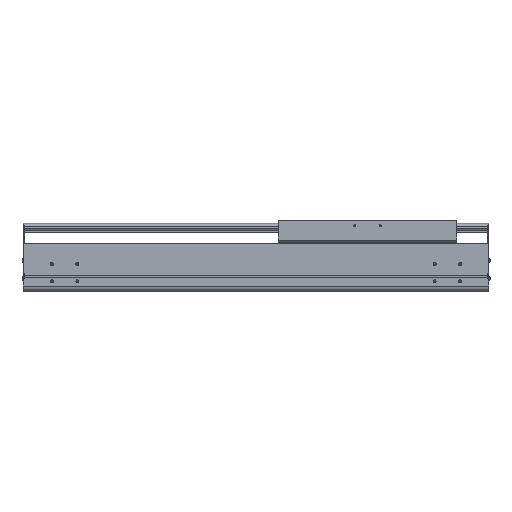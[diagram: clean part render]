
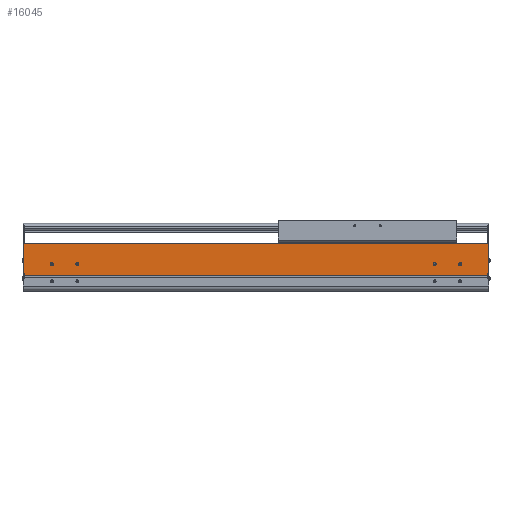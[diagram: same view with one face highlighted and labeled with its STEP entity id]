
A CAD part, top view. The second image highlights one B-rep face of the part: STEP entity #16045.
In plain terms, the highlighted planar face has unit normal (0, 0, 1).
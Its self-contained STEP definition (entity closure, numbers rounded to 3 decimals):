
#1622=DIRECTION('',(0.,-1.,0.));
#1623=VECTOR('',#1622,2.55);
#1624=CARTESIAN_POINT('',(0.,34.65,107.));
#1625=LINE('',#1624,#1623);
#2105=DIRECTION('',(1.,0.,0.));
#2106=VECTOR('',#2105,2.);
#2107=CARTESIAN_POINT('',(-911.,34.65,107.));
#2108=LINE('',#2107,#2106);
#2109=CARTESIAN_POINT('',(-54.5,54.,107.));
#2110=DIRECTION('',(0.,0.,-1.));
#2111=DIRECTION('',(1.,0.,0.));
#2112=AXIS2_PLACEMENT_3D('',#2109,#2110,#2111);
#2114=CARTESIAN_POINT('',(-54.5,54.,107.));
#2115=DIRECTION('',(0.,0.,-1.));
#2116=DIRECTION('',(-1.,0.,0.));
#2117=AXIS2_PLACEMENT_3D('',#2114,#2115,#2116);
#2119=CARTESIAN_POINT('',(-104.5,54.,107.));
#2120=DIRECTION('',(0.,0.,-1.));
#2121=DIRECTION('',(1.,0.,0.));
#2122=AXIS2_PLACEMENT_3D('',#2119,#2120,#2121);
#2124=CARTESIAN_POINT('',(-104.5,54.,107.));
#2125=DIRECTION('',(0.,0.,-1.));
#2126=DIRECTION('',(-1.,0.,0.));
#2127=AXIS2_PLACEMENT_3D('',#2124,#2125,#2126);
#2129=CARTESIAN_POINT('',(-854.5,54.,107.));
#2130=DIRECTION('',(0.,0.,-1.));
#2131=DIRECTION('',(1.,0.,0.));
#2132=AXIS2_PLACEMENT_3D('',#2129,#2130,#2131);
#2134=CARTESIAN_POINT('',(-854.5,54.,107.));
#2135=DIRECTION('',(0.,0.,-1.));
#2136=DIRECTION('',(-1.,0.,0.));
#2137=AXIS2_PLACEMENT_3D('',#2134,#2135,#2136);
#2139=CARTESIAN_POINT('',(-804.5,54.,107.));
#2140=DIRECTION('',(0.,0.,-1.));
#2141=DIRECTION('',(1.,0.,0.));
#2142=AXIS2_PLACEMENT_3D('',#2139,#2140,#2141);
#2144=CARTESIAN_POINT('',(-804.5,54.,107.));
#2145=DIRECTION('',(0.,0.,-1.));
#2146=DIRECTION('',(-1.,0.,0.));
#2147=AXIS2_PLACEMENT_3D('',#2144,#2145,#2146);
#2149=DIRECTION('',(0.,-1.,0.));
#2150=VECTOR('',#2149,2.55);
#2151=CARTESIAN_POINT('',(-909.,34.65,107.));
#2152=LINE('',#2151,#2150);
#2153=DIRECTION('',(0.,-1.,0.));
#2154=VECTOR('',#2153,58.85);
#2155=CARTESIAN_POINT('',(-911.,93.5,107.));
#2156=LINE('',#2155,#2154);
#2157=DIRECTION('',(0.,1.,0.));
#2158=VECTOR('',#2157,58.85);
#2159=CARTESIAN_POINT('',(2.,34.65,107.));
#2160=LINE('',#2159,#2158);
#2161=DIRECTION('',(1.,0.,0.));
#2162=VECTOR('',#2161,909.);
#2163=CARTESIAN_POINT('',(-909.,32.1,107.));
#2164=LINE('',#2163,#2162);
#2269=DIRECTION('',(-1.,0.,0.));
#2270=VECTOR('',#2269,913.);
#2271=CARTESIAN_POINT('',(2.,93.5,107.));
#2272=LINE('',#2271,#2270);
#9331=DIRECTION('',(1.,0.,0.));
#9332=VECTOR('',#9331,2.);
#9333=CARTESIAN_POINT('',(0.,34.65,107.));
#9334=LINE('',#9333,#9332);
#10581=CARTESIAN_POINT('',(-911.,34.65,107.));
#10582=VERTEX_POINT('',#10581);
#10583=CARTESIAN_POINT('',(-911.,93.5,107.));
#10584=VERTEX_POINT('',#10583);
#10813=CARTESIAN_POINT('',(-909.,32.1,107.));
#10814=VERTEX_POINT('',#10813);
#11229=CARTESIAN_POINT('',(0.,32.1,107.));
#11230=VERTEX_POINT('',#11229);
#11231=CARTESIAN_POINT('',(-52.,54.,107.));
#11232=CARTESIAN_POINT('',(-57.,54.,107.));
#11233=VERTEX_POINT('',#11231);
#11234=VERTEX_POINT('',#11232);
#11235=CARTESIAN_POINT('',(-102.,54.,107.));
#11236=CARTESIAN_POINT('',(-107.,54.,107.));
#11237=VERTEX_POINT('',#11235);
#11238=VERTEX_POINT('',#11236);
#11239=CARTESIAN_POINT('',(-852.,54.,107.));
#11240=CARTESIAN_POINT('',(-857.,54.,107.));
#11241=VERTEX_POINT('',#11239);
#11242=VERTEX_POINT('',#11240);
#11243=CARTESIAN_POINT('',(-802.,54.,107.));
#11244=CARTESIAN_POINT('',(-807.,54.,107.));
#11245=VERTEX_POINT('',#11243);
#11246=VERTEX_POINT('',#11244);
#12235=CARTESIAN_POINT('',(2.,34.65,107.));
#12236=VERTEX_POINT('',#12235);
#12237=CARTESIAN_POINT('',(2.,93.5,107.));
#12238=VERTEX_POINT('',#12237);
#12581=CARTESIAN_POINT('',(0.,34.65,107.));
#12582=VERTEX_POINT('',#12581);
#12769=CARTESIAN_POINT('',(-909.,34.65,107.));
#12770=VERTEX_POINT('',#12769);
#16003=CARTESIAN_POINT('',(-454.5,62.8,107.));
#16004=DIRECTION('',(0.,0.,1.));
#16005=DIRECTION('',(0.,-1.,0.));
#16006=AXIS2_PLACEMENT_3D('',#16003,#16004,#16005);
#16007=PLANE('',#16006);
#16008=ORIENTED_EDGE('',*,*,#14256,.F.);
#16009=ORIENTED_EDGE('',*,*,#15998,.F.);
#16010=ORIENTED_EDGE('',*,*,#14885,.F.);
#16012=ORIENTED_EDGE('',*,*,#16011,.F.);
#16013=ORIENTED_EDGE('',*,*,#13994,.F.);
#16015=ORIENTED_EDGE('',*,*,#16014,.F.);
#16016=ORIENTED_EDGE('',*,*,#15605,.T.);
#16018=ORIENTED_EDGE('',*,*,#16017,.F.);
#16019=EDGE_LOOP('',(#16008,#16009,#16010,#16012,#16013,#16015,#16016,#16018));
#16020=FACE_OUTER_BOUND('',#16019,.F.);
#16022=ORIENTED_EDGE('',*,*,#16021,.F.);
#16024=ORIENTED_EDGE('',*,*,#16023,.F.);
#16025=EDGE_LOOP('',(#16022,#16024));
#16026=FACE_BOUND('',#16025,.F.);
#16028=ORIENTED_EDGE('',*,*,#16027,.F.);
#16030=ORIENTED_EDGE('',*,*,#16029,.F.);
#16031=EDGE_LOOP('',(#16028,#16030));
#16032=FACE_BOUND('',#16031,.F.);
#16034=ORIENTED_EDGE('',*,*,#16033,.F.);
#16036=ORIENTED_EDGE('',*,*,#16035,.F.);
#16037=EDGE_LOOP('',(#16034,#16036));
#16038=FACE_BOUND('',#16037,.F.);
#16040=ORIENTED_EDGE('',*,*,#16039,.F.);
#16042=ORIENTED_EDGE('',*,*,#16041,.F.);
#16043=EDGE_LOOP('',(#16040,#16042));
#16044=FACE_BOUND('',#16043,.F.);
#16045=ADVANCED_FACE('',(#16020,#16026,#16032,#16038,#16044),#16007,.T.);
#2113=CIRCLE('',#2112,2.5);
#2118=CIRCLE('',#2117,2.5);
#2123=CIRCLE('',#2122,2.5);
#2128=CIRCLE('',#2127,2.5);
#2133=CIRCLE('',#2132,2.5);
#2138=CIRCLE('',#2137,2.5);
#2143=CIRCLE('',#2142,2.5);
#2148=CIRCLE('',#2147,2.5);
#13994=EDGE_CURVE('',#12236,#12238,#2160,.T.);
#14256=EDGE_CURVE('',#12770,#10814,#2152,.T.);
#14885=EDGE_CURVE('',#10584,#10582,#2156,.T.);
#15605=EDGE_CURVE('',#12582,#11230,#1625,.T.);
#15998=EDGE_CURVE('',#10582,#12770,#2108,.T.);
#16011=EDGE_CURVE('',#12238,#10584,#2272,.T.);
#16014=EDGE_CURVE('',#12582,#12236,#9334,.T.);
#16017=EDGE_CURVE('',#10814,#11230,#2164,.T.);
#16021=EDGE_CURVE('',#11237,#11238,#2123,.T.);
#16023=EDGE_CURVE('',#11238,#11237,#2128,.T.);
#16027=EDGE_CURVE('',#11241,#11242,#2133,.T.);
#16029=EDGE_CURVE('',#11242,#11241,#2138,.T.);
#16033=EDGE_CURVE('',#11245,#11246,#2143,.T.);
#16035=EDGE_CURVE('',#11246,#11245,#2148,.T.);
#16039=EDGE_CURVE('',#11233,#11234,#2113,.T.);
#16041=EDGE_CURVE('',#11234,#11233,#2118,.T.);
